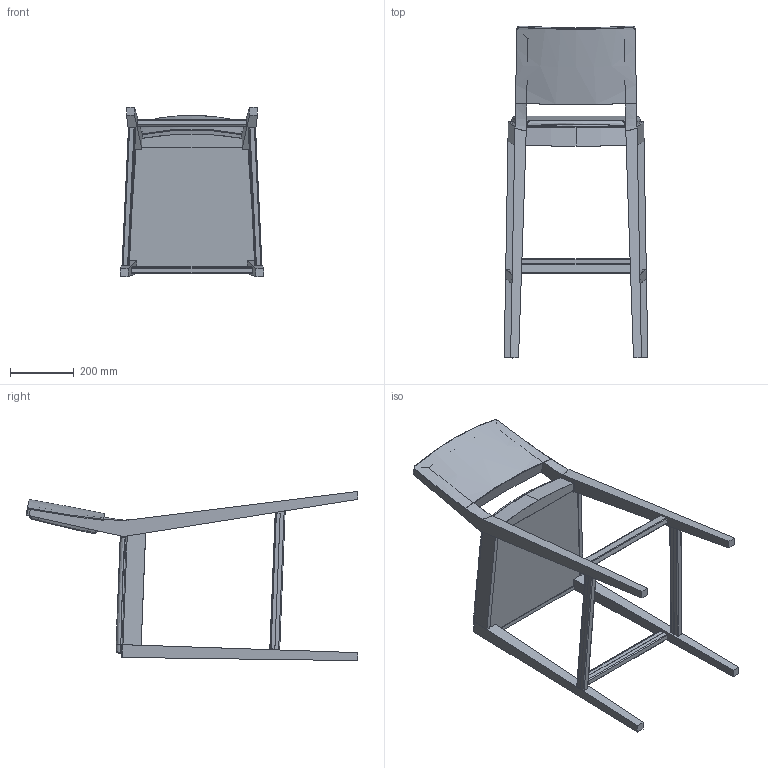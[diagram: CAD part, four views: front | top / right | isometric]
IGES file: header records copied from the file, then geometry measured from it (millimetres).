
Start section: SolidWorks IGES file using analytic representation for surfaces
Global section: file name: D:\DESENHOSSOLIDWORKS\Desenhos Tecnicos\Fabrica2\Cadeiras\Técnicos\CIBELLE\3d surfaces\Cibelle M620.IGS; native system: SolidWorks 2012; preprocessor: SolidWorks 2012; author: emanuel; date: 121029.101018; units: millimetre
Bounding box: 450 x 1039.23 x 530 mm (x, y, z)
Surface area: 1441168.9 mm2 (no closed solid volume)
Topology: 0 solids, 0 shells, 176 faces, 2188 edges, 2178 vertices
Faces by surface type: bspline 139, revolution 37
